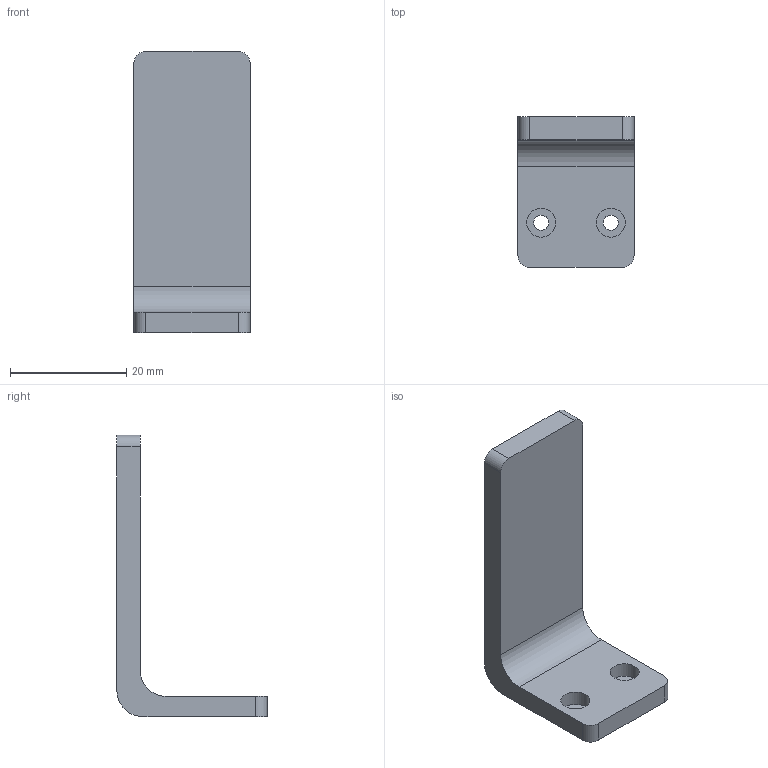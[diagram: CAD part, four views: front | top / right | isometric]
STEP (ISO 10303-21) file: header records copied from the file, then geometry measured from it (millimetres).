
FILE_DESCRIPTION(/* description */ (''),/* implementation_level */ '2;1');
FILE_NAME(/* name */ 'ORA Flat Jaw Small.step',/* time_stamp */ '2024-09-26T15:28:26-07:00',/* author */ (''),/* organization */ (''),/* preprocessor_version */ 'ST-DEVELOPER v20',/* originating_system */ 'Autodesk Translation Framework v13.20.0.188',/* authorisation */ '');
FILE_SCHEMA (('AUTOMOTIVE_DESIGN { 1 0 10303 214 3 1 1 }'));
Length unit declared in the file: millimetre
Products named in the file (1): Gripper Lite Alternate Jaw
Bounding box: 20 x 25.9 x 48.5 mm (x, y, z)
Volume: 5288.5 mm3; surface area: 3495.4 mm2
Topology: 1 solids, 1 shells, 20 faces, 48 edges, 32 vertices
Faces by surface type: plane 10, cylinder 10
Full cylindrical faces by diameter (mm): 2.6 x2, 5 x2
Entity records: 647 total; most frequent: DIRECTION 110, CARTESIAN_POINT 101, ORIENTED_EDGE 96, EDGE_CURVE 48, AXIS2_PLACEMENT_3D 41, VERTEX_POINT 32, LINE 28, VECTOR 28
